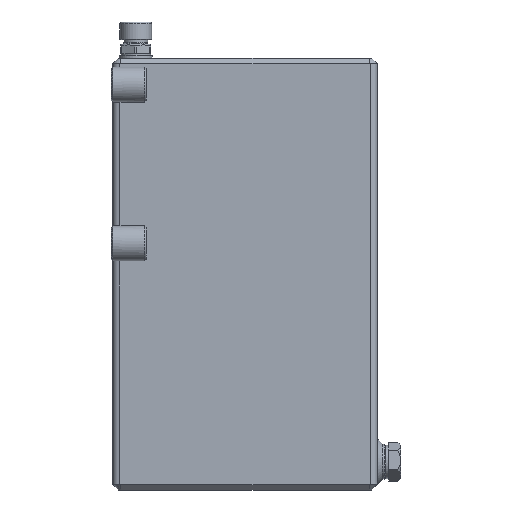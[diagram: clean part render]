
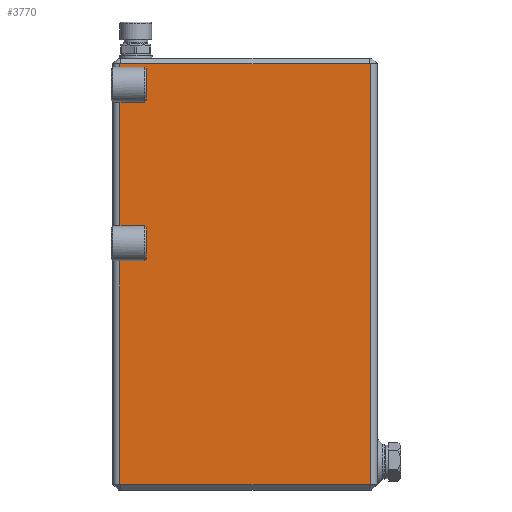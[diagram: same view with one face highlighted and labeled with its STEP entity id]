
A CAD part, left-side view. The second image highlights one B-rep face of the part: STEP entity #3770.
In plain terms, the highlighted planar face has unit normal (-1, 0, 0).
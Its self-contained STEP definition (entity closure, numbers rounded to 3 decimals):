
#48=LINE('',#7892,#281);
#53=LINE('',#7902,#286);
#54=LINE('',#7904,#287);
#56=LINE('',#7908,#289);
#58=LINE('',#7912,#291);
#61=LINE('',#7918,#294);
#62=LINE('',#7920,#295);
#64=LINE('',#7924,#297);
#66=LINE('',#7928,#299);
#87=LINE('',#7972,#320);
#88=LINE('',#7974,#321);
#108=LINE('',#8059,#341);
#110=LINE('',#8062,#343);
#111=LINE('',#8064,#344);
#112=LINE('',#8065,#345);
#113=LINE('',#8067,#346);
#114=LINE('',#8068,#347);
#115=LINE('',#8070,#348);
#281=VECTOR('',#6684,1000.);
#286=VECTOR('',#6691,1000.);
#287=VECTOR('',#6694,1000.);
#289=VECTOR('',#6698,1000.);
#291=VECTOR('',#6702,1000.);
#294=VECTOR('',#6707,1000.);
#295=VECTOR('',#6710,1000.);
#297=VECTOR('',#6714,1000.);
#299=VECTOR('',#6718,1000.);
#320=VECTOR('',#6761,1000.);
#321=VECTOR('',#6764,1000.);
#341=VECTOR('',#6870,1000.);
#343=VECTOR('',#6874,1000.);
#344=VECTOR('',#6875,1000.);
#345=VECTOR('',#6876,1000.);
#346=VECTOR('',#6877,1000.);
#347=VECTOR('',#6878,1000.);
#348=VECTOR('',#6879,1000.);
#1039=ORIENTED_EDGE('',*,*,#1838,.T.);
#1040=ORIENTED_EDGE('',*,*,#1775,.T.);
#1041=ORIENTED_EDGE('',*,*,#1773,.T.);
#1042=ORIENTED_EDGE('',*,*,#1771,.T.);
#1043=ORIENTED_EDGE('',*,*,#1770,.T.);
#1044=ORIENTED_EDGE('',*,*,#1839,.T.);
#1045=ORIENTED_EDGE('',*,*,#1767,.T.);
#1046=ORIENTED_EDGE('',*,*,#1765,.T.);
#1047=ORIENTED_EDGE('',*,*,#1763,.T.);
#1048=ORIENTED_EDGE('',*,*,#1762,.T.);
#1049=ORIENTED_EDGE('',*,*,#1840,.T.);
#1050=ORIENTED_EDGE('',*,*,#1841,.F.);
#1051=ORIENTED_EDGE('',*,*,#1757,.F.);
#1052=ORIENTED_EDGE('',*,*,#1797,.F.);
#1053=ORIENTED_EDGE('',*,*,#1798,.T.);
#1054=ORIENTED_EDGE('',*,*,#1836,.F.);
#1055=ORIENTED_EDGE('',*,*,#1842,.F.);
#1056=ORIENTED_EDGE('',*,*,#1843,.F.);
#1757=EDGE_CURVE('',#2220,#2227,#48,.T.);
#1762=EDGE_CURVE('',#2229,#2230,#53,.T.);
#1763=EDGE_CURVE('',#2186,#2229,#54,.T.);
#1765=EDGE_CURVE('',#2231,#2186,#56,.T.);
#1767=EDGE_CURVE('',#2232,#2231,#58,.T.);
#1770=EDGE_CURVE('',#2233,#2234,#61,.T.);
#1771=EDGE_CURVE('',#2189,#2233,#62,.T.);
#1773=EDGE_CURVE('',#2235,#2189,#64,.T.);
#1775=EDGE_CURVE('',#2236,#2235,#66,.T.);
#1797=EDGE_CURVE('',#2248,#2220,#87,.T.);
#1798=EDGE_CURVE('',#2248,#2249,#88,.T.);
#1836=EDGE_CURVE('',#2269,#2249,#108,.T.);
#1838=EDGE_CURVE('',#2271,#2236,#110,.T.);
#1839=EDGE_CURVE('',#2234,#2232,#111,.T.);
#1840=EDGE_CURVE('',#2230,#2272,#112,.T.);
#1841=EDGE_CURVE('',#2227,#2272,#113,.T.);
#1842=EDGE_CURVE('',#2273,#2269,#114,.T.);
#1843=EDGE_CURVE('',#2271,#2273,#115,.T.);
#2186=VERTEX_POINT('',#7786);
#2189=VERTEX_POINT('',#7793);
#2220=VERTEX_POINT('',#7876);
#2227=VERTEX_POINT('',#7893);
#2229=VERTEX_POINT('',#7899);
#2230=VERTEX_POINT('',#7901);
#2231=VERTEX_POINT('',#7907);
#2232=VERTEX_POINT('',#7911);
#2233=VERTEX_POINT('',#7915);
#2234=VERTEX_POINT('',#7917);
#2235=VERTEX_POINT('',#7923);
#2236=VERTEX_POINT('',#7927);
#2248=VERTEX_POINT('',#7971);
#2249=VERTEX_POINT('',#7975);
#2269=VERTEX_POINT('',#8057);
#2271=VERTEX_POINT('',#8063);
#2272=VERTEX_POINT('',#8066);
#2273=VERTEX_POINT('',#8069);
#2914=EDGE_LOOP('',(#1039,#1040,#1041,#1042,#1043,#1044,#1045,#1046,#1047,
#1048,#1049,#1050,#1051,#1052,#1053,#1054,#1055,#1056));
#3320=FACE_BOUND('',#2914,.T.);
#3569=PLANE('',#5996);
#3770=ADVANCED_FACE('',(#3320),#3569,.F.);
#5996=AXIS2_PLACEMENT_3D('',#8061,#6872,#6873);
#6684=DIRECTION('',(0.,1.,0.));
#6691=DIRECTION('',(0.,1.,0.));
#6694=DIRECTION('',(0.,0.,-1.));
#6698=DIRECTION('',(0.,0.,-1.));
#6702=DIRECTION('',(0.,-1.,0.));
#6707=DIRECTION('',(0.,1.,0.));
#6710=DIRECTION('',(0.,0.,-1.));
#6714=DIRECTION('',(0.,0.,-1.));
#6718=DIRECTION('',(0.,-1.,0.));
#6761=DIRECTION('',(0.,1.,0.));
#6764=DIRECTION('',(0.,0.,1.));
#6870=DIRECTION('',(0.,-1.,0.));
#6872=DIRECTION('',(1.,0.,0.));
#6873=DIRECTION('',(0.,1.,0.));
#6874=DIRECTION('',(0.,0.,-1.));
#6875=DIRECTION('',(0.,0.,-1.));
#6876=DIRECTION('',(0.,0.,-1.));
#6877=DIRECTION('',(0.,1.,0.));
#6878=DIRECTION('',(0.,-1.,0.));
#6879=DIRECTION('',(0.,-1.,0.));
#7786=CARTESIAN_POINT('',(-50.,57.,140.));
#7793=CARTESIAN_POINT('',(-50.,57.,230.));
#7876=CARTESIAN_POINT('',(-50.,-70.5,3.));
#7892=CARTESIAN_POINT('',(-50.,-75.,3.));
#7893=CARTESIAN_POINT('',(-50.,70.5,3.));
#7899=CARTESIAN_POINT('',(-50.,57.,134.));
#7901=CARTESIAN_POINT('',(-50.,71.,134.));
#7902=CARTESIAN_POINT('',(-50.,57.,134.));
#7904=CARTESIAN_POINT('',(-50.,57.,122.5));
#7907=CARTESIAN_POINT('',(-50.,57.,146.));
#7908=CARTESIAN_POINT('',(-50.,57.,122.5));
#7911=CARTESIAN_POINT('',(-50.,71.,146.));
#7912=CARTESIAN_POINT('',(-50.,71.,146.));
#7915=CARTESIAN_POINT('',(-50.,57.,224.));
#7917=CARTESIAN_POINT('',(-50.,71.,224.));
#7918=CARTESIAN_POINT('',(-50.,57.,224.));
#7920=CARTESIAN_POINT('',(-50.,57.,122.5));
#7923=CARTESIAN_POINT('',(-50.,57.,236.));
#7924=CARTESIAN_POINT('',(-50.,57.,122.5));
#7927=CARTESIAN_POINT('',(-50.,71.,236.));
#7928=CARTESIAN_POINT('',(-50.,71.,236.));
#7971=CARTESIAN_POINT('',(-50.,-71.,3.));
#7972=CARTESIAN_POINT('',(-50.,-75.,3.));
#7974=CARTESIAN_POINT('',(-50.,-71.,3.));
#7975=CARTESIAN_POINT('',(-50.,-71.,242.));
#8057=CARTESIAN_POINT('',(-50.,-70.5,242.));
#8059=CARTESIAN_POINT('',(-50.,75.,242.));
#8061=CARTESIAN_POINT('',(-50.,0.,122.5));
#8062=CARTESIAN_POINT('',(-50.,71.,242.));
#8063=CARTESIAN_POINT('',(-50.,71.,242.));
#8064=CARTESIAN_POINT('',(-50.,71.,242.));
#8065=CARTESIAN_POINT('',(-50.,71.,242.));
#8066=CARTESIAN_POINT('',(-50.,71.,3.));
#8067=CARTESIAN_POINT('',(-50.,-75.,3.));
#8068=CARTESIAN_POINT('',(-50.,75.,242.));
#8069=CARTESIAN_POINT('',(-50.,70.5,242.));
#8070=CARTESIAN_POINT('',(-50.,75.,242.));
